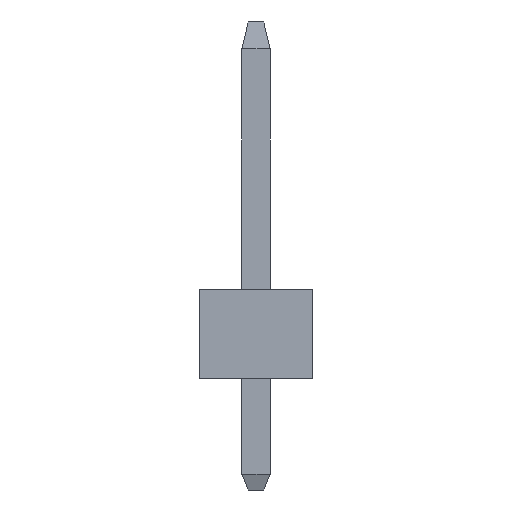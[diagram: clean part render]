
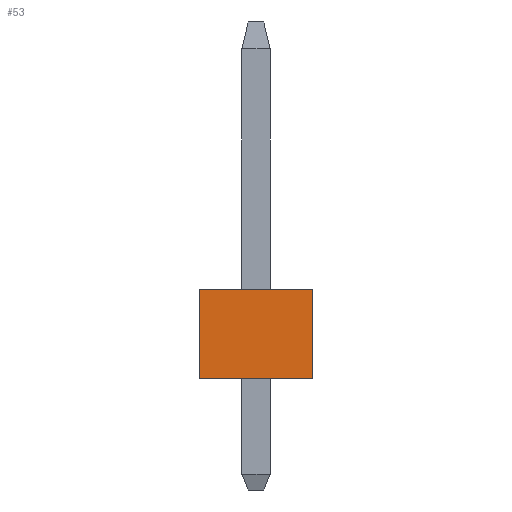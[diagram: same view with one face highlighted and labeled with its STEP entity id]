
A CAD part, left-side view. The second image highlights one B-rep face of the part: STEP entity #53.
In plain terms, the highlighted planar face has unit normal (-1, 0, 0).
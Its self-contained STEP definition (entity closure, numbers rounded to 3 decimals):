
#18 = CARTESIAN_POINT('',(-15.24,-1.27,0.));
#19 = VERTEX_POINT('',#18);
#20 = CARTESIAN_POINT('',(-15.24,-1.27,2.));
#21 = VERTEX_POINT('',#20);
#22 = CARTESIAN_POINT('',(-15.24,1.27,2.));
#23 = VERTEX_POINT('',#22);
#24 = CARTESIAN_POINT('',(-15.24,1.27,0.));
#25 = VERTEX_POINT('',#24);
#26 = DIRECTION('',(0.,0.,1.));
#27 = VECTOR('',#26,1.);
#28 = LINE('',#18,#27);
#29 = EDGE_CURVE('',#19,#21,#28,.T.);
#30 = ORIENTED_EDGE('',*,*,#29,.T.);
#31 = DIRECTION('',(0.,1.,0.));
#32 = VECTOR('',#31,1.);
#33 = LINE('',#20,#32);
#34 = EDGE_CURVE('',#21,#23,#33,.T.);
#35 = ORIENTED_EDGE('',*,*,#34,.T.);
#36 = DIRECTION('',(0.,0.,1.));
#37 = VECTOR('',#36,1.);
#38 = LINE('',#24,#37);
#39 = EDGE_CURVE('',#25,#23,#38,.T.);
#40 = ORIENTED_EDGE('',*,*,#39,.F.);
#41 = DIRECTION('',(0.,1.,0.));
#42 = VECTOR('',#41,1.);
#43 = LINE('',#18,#42);
#44 = EDGE_CURVE('',#19,#25,#43,.T.);
#45 = ORIENTED_EDGE('',*,*,#44,.F.);
#46 = CARTESIAN_POINT('',(-15.24,-1.27,0.));
#47 = DIRECTION('',(-1.,0.,0.));
#48 = DIRECTION('',(0.,0.,1.));
#49 = AXIS2_PLACEMENT_3D('',#46,#47,#48);
#50 = PLANE('',#49);
#51 = EDGE_LOOP('',(#30,#35,#40,#45));
#52 = FACE_OUTER_BOUND('',#51,.T.);
#53 = ADVANCED_FACE('',(#52),#50,.T.);
